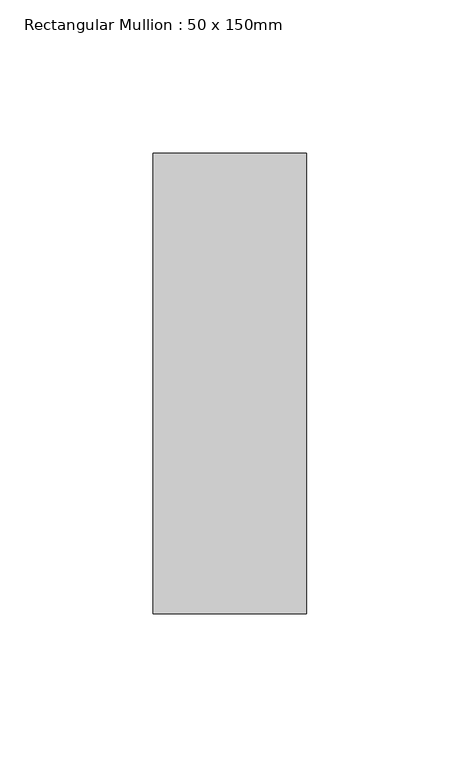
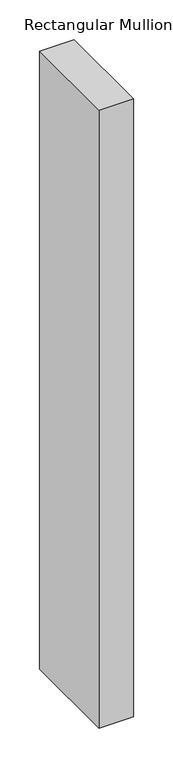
"""IFC4 building model written with IfcOpenShell, lengths in millimetres: member geometry, Rectangular Mullion : 50 x 150mm."""

import ifcopenshell
import ifcopenshell.guid

model = None  # the IFC model being written
_history = None  # IfcOwnerHistory: only IFC2X3 demands one
_inside = {}  # id of a spatial element -> (the spatial element, [elements in it])
_under = {}  # id of a project, library or spatial element -> (it, [spatial elements below it])
_declared = {}  # id of a project -> (the project, [libraries it declares])
_typed = {}  # id of a type object -> (the type object, [elements of that type])
_made_of = {}  # id of a material, layer set ... -> (it, [elements and type objects made of it])


def new_model(schema):
    """Start an empty IFC model of exactly this schema.

    Asked for "IFC4X3", IfcOpenShell would pick the latest addendum, in which some entities
    have other attributes; the version numbers below select the first issue.
    IFC2X3 requires an IfcOwnerHistory on every rooted entity: one is made here for all.
    """
    global model, _history
    if schema == "IFC4X3":
        model = ifcopenshell.file(schema_version=(4, 3, 0, 0))
    else:
        model = ifcopenshell.file(schema=schema)
    _inside.clear()
    _under.clear()
    _declared.clear()
    _typed.clear()
    _made_of.clear()
    _history = None
    if model.schema == "IFC2X3":
        org = make("IfcOrganization", Name="unknown")
        user = make(
            "IfcPersonAndOrganization",
            ThePerson=make("IfcPerson", FamilyName="unknown"),
            TheOrganization=org,
        )
        app = make(
            "IfcApplication",
            ApplicationDeveloper=org,
            Version="unknown",
            ApplicationFullName="unknown",
            ApplicationIdentifier="unknown",
        )
        _history = make(
            "IfcOwnerHistory",
            OwningUser=user,
            OwningApplication=app,
            ChangeAction="ADDED",
            CreationDate=0,
        )
    return model


def make(cls, **values):
    """One entity of the class cls with the attributes given. An attribute that is None is left unset."""
    return model.create_entity(
        cls, **{name: value for name, value in values.items() if value is not None}
    )


def rooted(cls, **values):
    """An entity with a GlobalId (a new one), such as an element, a storey or a relation."""
    return make(cls, GlobalId=ifcopenshell.guid.new(), OwnerHistory=_history, **values)


def si_unit(unit_type, name, prefix=None):
    """IfcSIUnit, for example si_unit("LENGTHUNIT", "METRE", prefix="MILLI")."""
    return make("IfcSIUnit", UnitType=unit_type, Prefix=prefix, Name=name)


def assignment(units):
    """IfcUnitAssignment: the units of a project."""
    return None if units is None else make("IfcUnitAssignment", Units=units)


def point(xyz):
    """IfcCartesianPoint."""
    return None if xyz is None else make("IfcCartesianPoint", Coordinates=xyz)


def direction(xyz):
    """IfcDirection."""
    return None if xyz is None else make("IfcDirection", DirectionRatios=xyz)


def frame(location, z_axis=None, x_axis=None):
    """IfcAxis2Placement3D, a coordinate frame: its origin and axes. An axis left out is left unset."""
    return make(
        "IfcAxis2Placement3D",
        Location=point(location),
        Axis=direction(z_axis),
        RefDirection=direction(x_axis),
    )


def origin():
    """The frame at (0, 0, 0) with its axes left unset."""
    return frame((0.0, 0.0, 0.0))


def place(relative_to, where):
    """IfcLocalPlacement: puts the frame where relative to a parent placement (None: the world)."""
    return make(
        "IfcLocalPlacement", PlacementRelTo=relative_to, RelativePlacement=where
    )


def context(
    kind, dimensions, precision=None, world=None, true_north=None, identifier=None
):
    """IfcGeometricRepresentationContext, for example the 3D "Model" context."""
    return make(
        "IfcGeometricRepresentationContext",
        ContextIdentifier=identifier,
        ContextType=kind,
        CoordinateSpaceDimension=dimensions,
        Precision=precision,
        WorldCoordinateSystem=world,
        TrueNorth=true_north,
    )


def project(units=None, contexts=None):
    """IfcProject with its units and contexts."""
    return rooted(
        "IfcProject",
        Name="project",
        RepresentationContexts=contexts,
        UnitsInContext=assignment(units),
    )


def spatial(cls, under=None, at=None, **own):
    """A site, building, storey or space (cls), placed at a placement, below another one or the project."""
    s = rooted(cls, ObjectPlacement=at, **own)
    if under is not None:
        _under.setdefault(under.id(), (under, []))[1].append(s)
    return s


def polyline(points):
    """IfcPolyline through the points."""
    return make("IfcPolyline", Points=[point(p) for p in points])


def outline(outer, holes=None, kind="AREA"):
    """IfcArbitraryClosedProfileDef: a profile drawn as a closed curve; with holes, ...WithVoids."""
    if holes is None:
        return make("IfcArbitraryClosedProfileDef", ProfileType=kind, OuterCurve=outer)
    return make(
        "IfcArbitraryProfileDefWithVoids",
        ProfileType=kind,
        OuterCurve=outer,
        InnerCurves=holes,
    )


def extrude(swept, where, along, depth):
    """IfcExtrudedAreaSolid: the profile swept, set in the frame where, extruded along a direction by depth."""
    return make(
        "IfcExtrudedAreaSolid",
        SweptArea=swept,
        Position=where,
        ExtrudedDirection=direction(along),
        Depth=depth,
    )


def shape(context_of_items, identifier, shape_type, items):
    """IfcShapeRepresentation: the items that make up one representation, for example the "Body"."""
    return make(
        "IfcShapeRepresentation",
        ContextOfItems=context_of_items,
        RepresentationIdentifier=identifier,
        RepresentationType=shape_type,
        Items=items,
    )


def source(mapping_origin, context_of_items, identifier, shape_type, items):
    """IfcRepresentationMap: a shape defined once, which mapped items show again and again."""
    return make(
        "IfcRepresentationMap",
        MappingOrigin=mapping_origin,
        MappedRepresentation=shape(context_of_items, identifier, shape_type, items),
    )


def transform(
    local_origin,
    x_axis=None,
    y_axis=None,
    z_axis=None,
    scale=None,
    scale2=None,
    scale3=None,
    uniform=True,
):
    """IfcCartesianTransformationOperator3D, or its non-uniform kind. x_axis, y_axis, z_axis: its Axis1, 2, 3."""
    if uniform:
        return make(
            "IfcCartesianTransformationOperator3D",
            Axis1=direction(x_axis),
            Axis2=direction(y_axis),
            LocalOrigin=point(local_origin),
            Scale=scale,
            Axis3=direction(z_axis),
        )
    return make(
        "IfcCartesianTransformationOperator3DnonUniform",
        Axis1=direction(x_axis),
        Axis2=direction(y_axis),
        LocalOrigin=point(local_origin),
        Scale=scale,
        Axis3=direction(z_axis),
        Scale2=scale2,
        Scale3=scale3,
    )


def mapped(mapping_source, mapping_target):
    """IfcMappedItem: shows the shape of a source again, moved by a transform."""
    return make(
        "IfcMappedItem", MappingSource=mapping_source, MappingTarget=mapping_target
    )


def made_of(thing, what):
    """Note that an element or type object is made of a material, layer set ...; save() writes the relation."""
    if what is not None:
        _made_of.setdefault(what.id(), (what, []))[1].append(thing)
    return thing


def element(
    cls,
    number,
    at=None,
    inside=None,
    cuts=None,
    type_object=None,
    material=None,
    context=None,
    identifier="Body",
    shape_type=None,
    held_by="IfcProductDefinitionShape",
    body=None,
    shapes=None,
    **own,
):
    """One element of the class cls, such as IfcWall. Its Tag is "e" and its number.

    at: its placement. inside: the storey or other place that contains it. cuts: it is an
    opening in that element (IfcRelVoidsElement). A single representation is given by context,
    identifier, shape_type and body (its items); several are given by shapes. held_by: the class
    of the entity that holds the representations. save() writes the other relations.
    """
    e = rooted(cls, Tag="e%d" % number, ObjectPlacement=at, **own)
    if body is not None:
        shapes = [shape(context, identifier, shape_type, body)]
    if shapes is not None:
        e.Representation = make(held_by, Representations=shapes)
    if inside is not None:
        _inside.setdefault(inside.id(), (inside, []))[1].append(e)
    if cuts is not None:
        rooted(
            "IfcRelVoidsElement", RelatingBuildingElement=cuts, RelatedOpeningElement=e
        )
    if type_object is not None:
        _typed.setdefault(type_object.id(), (type_object, []))[1].append(e)
    return made_of(e, material)


def aggregate(whole, parts):
    """IfcRelAggregates: a whole, such as a stair, and the parts it consists of."""
    return rooted("IfcRelAggregates", RelatingObject=whole, RelatedObjects=parts)


def save(model, path):
    """Write the relations noted so far, then the file.

    IfcRelAggregates (storeys below a building ...), IfcRelContainedInSpatialStructure (elements
    in a storey), IfcRelDefinesByType, IfcRelAssociatesMaterial and IfcRelDeclares: one each for
    every whole, place, type object, material and project.
    """
    for whole, parts in _under.values():
        aggregate(whole, parts)
    for where, things in _inside.values():
        rooted(
            "IfcRelContainedInSpatialStructure",
            RelatedElements=things,
            RelatingStructure=where,
        )
    for kind, things in _typed.values():
        rooted("IfcRelDefinesByType", RelatedObjects=things, RelatingType=kind)
    for what, things in _made_of.values():
        rooted("IfcRelAssociatesMaterial", RelatedObjects=things, RelatingMaterial=what)
    for by, libraries in _declared.values():
        rooted("IfcRelDeclares", RelatingContext=by, RelatedDefinitions=libraries)
    model.write(path)


def rectangular_mullion_50_x_150mm_f49bdeed(model_context):
    return source(origin(), model_context, "Body", "SweptSolid", [
        extrude(outline(polyline([(0.0, 75.0), (0.0, -75.0), (-50.0, -75.0), (-50.0, 75.0), (0.0, 75.0)])), frame((0.0, 0.0, -951.3515371), z_axis=(0.0, 0.0, 1.0), x_axis=(1.0, 0.0, 0.0)), (0.0, 0.0, 1.0), 951.3515371),
    ])


if __name__ == "__main__":
    model = new_model("IFC4")
    model_context = context("Model", 3, world=origin())
    ifc_project = project(units=[si_unit("LENGTHUNIT", "METRE", prefix="MILLI")], contexts=[model_context])
    site = spatial("IfcSite", under=ifc_project)
    building = spatial("IfcBuilding", under=site)
    placement = place(None, origin())
    rectangular_mullion_50_x_150mm_shape = rectangular_mullion_50_x_150mm_f49bdeed(model_context)
    element("IfcMember", 1, ObjectType="Rectangular Mullion : 50 x 150mm", at=placement, inside=building, context=model_context, shape_type="MappedRepresentation", body=[
        mapped(rectangular_mullion_50_x_150mm_shape, transform((0.0, 0.0, 0.0), x_axis=(1.0, 0.0, 0.0), y_axis=(0.0, 1.0, 0.0), z_axis=(0.0, 0.0, 1.0))),
    ])
    save(model, "model.ifc")
